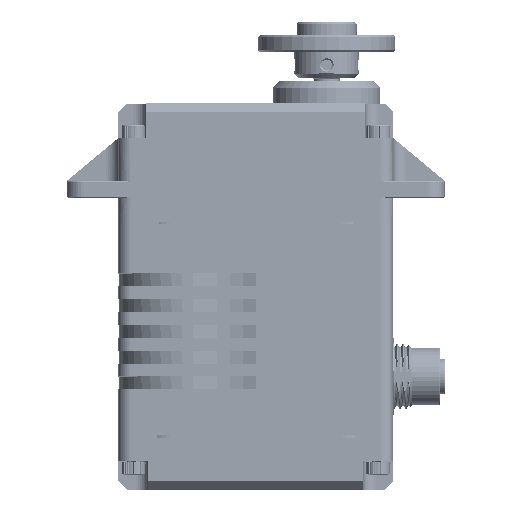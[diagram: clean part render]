
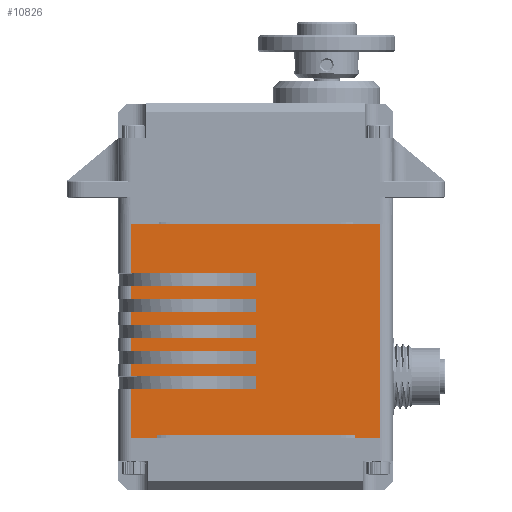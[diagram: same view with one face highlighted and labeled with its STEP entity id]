
A CAD part, top view. The second image highlights one B-rep face of the part: STEP entity #10826.
In plain terms, the highlighted planar face has unit normal (0, 0, 1).
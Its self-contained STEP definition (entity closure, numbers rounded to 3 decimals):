
#9131=DIRECTION('',(0.,-1.,0.));
#9132=VECTOR('',#9131,11.5);
#9133=CARTESIAN_POINT('',(-29.,0.,16.5));
#9134=LINE('',#9133,#9132);
#9169=DIRECTION('',(1.,0.,0.));
#9170=VECTOR('',#9169,29.);
#9171=CARTESIAN_POINT('',(-29.,-11.5,16.5));
#9172=LINE('',#9171,#9170);
#9197=DIRECTION('',(0.,-1.,0.));
#9198=VECTOR('',#9197,3.);
#9199=CARTESIAN_POINT('',(0.,-11.5,16.5));
#9200=LINE('',#9199,#9198);
#9240=DIRECTION('',(1.,0.,0.));
#9241=VECTOR('',#9240,29.);
#9242=CARTESIAN_POINT('',(-29.,-38.5,16.5));
#9243=LINE('',#9242,#9241);
#9244=DIRECTION('',(1.,0.,0.));
#9245=VECTOR('',#9244,29.);
#9246=CARTESIAN_POINT('',(-29.,-32.5,16.5));
#9247=LINE('',#9246,#9245);
#9248=DIRECTION('',(1.,0.,0.));
#9249=VECTOR('',#9248,29.);
#9250=CARTESIAN_POINT('',(-29.,-26.5,16.5));
#9251=LINE('',#9250,#9249);
#9252=DIRECTION('',(1.,0.,0.));
#9253=VECTOR('',#9252,29.);
#9254=CARTESIAN_POINT('',(-29.,-20.5,16.5));
#9255=LINE('',#9254,#9253);
#9256=DIRECTION('',(1.,0.,0.));
#9257=VECTOR('',#9256,29.);
#9258=CARTESIAN_POINT('',(-29.,-14.5,16.5));
#9259=LINE('',#9258,#9257);
#9260=DIRECTION('',(1.,0.,0.));
#9261=VECTOR('',#9260,58.);
#9262=CARTESIAN_POINT('',(-29.,0.,16.5));
#9263=LINE('',#9262,#9261);
#9264=DIRECTION('',(0.,1.,0.));
#9265=VECTOR('',#9264,0.6);
#9266=CARTESIAN_POINT('',(23.111,-49.8,16.5));
#9267=LINE('',#9266,#9265);
#9277=DIRECTION('',(1.,0.,0.));
#9278=VECTOR('',#9277,5.889);
#9279=CARTESIAN_POINT('',(-29.,-49.8,16.5));
#9280=LINE('',#9279,#9278);
#9421=DIRECTION('',(1.,0.,0.));
#9422=VECTOR('',#9421,5.889);
#9423=CARTESIAN_POINT('',(23.111,-49.8,16.5));
#9424=LINE('',#9423,#9422);
#9448=DIRECTION('',(0.,1.,0.));
#9449=VECTOR('',#9448,49.8);
#9450=CARTESIAN_POINT('',(29.,-49.8,16.5));
#9451=LINE('',#9450,#9449);
#9616=DIRECTION('',(1.,0.,0.));
#9617=VECTOR('',#9616,46.223);
#9618=CARTESIAN_POINT('',(-23.111,-49.2,16.5));
#9619=LINE('',#9618,#9617);
#9640=DIRECTION('',(0.,1.,0.));
#9641=VECTOR('',#9640,0.6);
#9642=CARTESIAN_POINT('',(-23.111,-49.8,16.5));
#9643=LINE('',#9642,#9641);
#9804=DIRECTION('',(0.,-1.,0.));
#9805=VECTOR('',#9804,3.);
#9806=CARTESIAN_POINT('',(-29.,-14.5,16.5));
#9807=LINE('',#9806,#9805);
#9846=DIRECTION('',(1.,0.,0.));
#9847=VECTOR('',#9846,29.);
#9848=CARTESIAN_POINT('',(-29.,-17.5,16.5));
#9849=LINE('',#9848,#9847);
#9854=DIRECTION('',(0.,-1.,0.));
#9855=VECTOR('',#9854,3.);
#9856=CARTESIAN_POINT('',(0.,-17.5,16.5));
#9857=LINE('',#9856,#9855);
#9897=DIRECTION('',(0.,-1.,0.));
#9898=VECTOR('',#9897,3.);
#9899=CARTESIAN_POINT('',(-29.,-20.5,16.5));
#9900=LINE('',#9899,#9898);
#9939=DIRECTION('',(1.,0.,0.));
#9940=VECTOR('',#9939,29.);
#9941=CARTESIAN_POINT('',(-29.,-23.5,16.5));
#9942=LINE('',#9941,#9940);
#9947=DIRECTION('',(0.,-1.,0.));
#9948=VECTOR('',#9947,3.);
#9949=CARTESIAN_POINT('',(0.,-23.5,16.5));
#9950=LINE('',#9949,#9948);
#9990=DIRECTION('',(0.,-1.,0.));
#9991=VECTOR('',#9990,3.);
#9992=CARTESIAN_POINT('',(-29.,-26.5,16.5));
#9993=LINE('',#9992,#9991);
#10032=DIRECTION('',(1.,0.,0.));
#10033=VECTOR('',#10032,29.);
#10034=CARTESIAN_POINT('',(-29.,-29.5,16.5));
#10035=LINE('',#10034,#10033);
#10040=DIRECTION('',(0.,-1.,0.));
#10041=VECTOR('',#10040,3.);
#10042=CARTESIAN_POINT('',(0.,-29.5,16.5));
#10043=LINE('',#10042,#10041);
#10083=DIRECTION('',(0.,-1.,0.));
#10084=VECTOR('',#10083,3.);
#10085=CARTESIAN_POINT('',(-29.,-32.5,16.5));
#10086=LINE('',#10085,#10084);
#10105=DIRECTION('',(1.,0.,0.));
#10106=VECTOR('',#10105,29.);
#10107=CARTESIAN_POINT('',(-29.,-35.5,16.5));
#10108=LINE('',#10107,#10106);
#10141=DIRECTION('',(0.,-1.,0.));
#10142=VECTOR('',#10141,3.);
#10143=CARTESIAN_POINT('',(0.,-35.5,16.5));
#10144=LINE('',#10143,#10142);
#10220=DIRECTION('',(0.,-1.,0.));
#10221=VECTOR('',#10220,11.3);
#10222=CARTESIAN_POINT('',(-29.,-38.5,16.5));
#10223=LINE('',#10222,#10221);
#10288=CARTESIAN_POINT('',(29.,-49.8,16.5));
#10290=VERTEX_POINT('',#10288);
#10292=CARTESIAN_POINT('',(29.,0.,16.5));
#10293=VERTEX_POINT('',#10292);
#10296=CARTESIAN_POINT('',(23.111,-49.8,16.5));
#10297=VERTEX_POINT('',#10296);
#10304=CARTESIAN_POINT('',(-29.,-49.8,16.5));
#10305=CARTESIAN_POINT('',(-23.111,-49.8,16.5));
#10306=VERTEX_POINT('',#10304);
#10307=VERTEX_POINT('',#10305);
#10308=CARTESIAN_POINT('',(-29.,-38.5,16.5));
#10309=VERTEX_POINT('',#10308);
#10310=CARTESIAN_POINT('',(0.,-38.5,16.5));
#10311=VERTEX_POINT('',#10310);
#10312=CARTESIAN_POINT('',(0.,-35.5,16.5));
#10313=VERTEX_POINT('',#10312);
#10314=CARTESIAN_POINT('',(-29.,-35.5,16.5));
#10315=VERTEX_POINT('',#10314);
#10316=CARTESIAN_POINT('',(-29.,-32.5,16.5));
#10317=VERTEX_POINT('',#10316);
#10318=CARTESIAN_POINT('',(0.,-32.5,16.5));
#10319=VERTEX_POINT('',#10318);
#10320=CARTESIAN_POINT('',(0.,-29.5,16.5));
#10321=VERTEX_POINT('',#10320);
#10322=CARTESIAN_POINT('',(-29.,-29.5,16.5));
#10323=VERTEX_POINT('',#10322);
#10324=CARTESIAN_POINT('',(-29.,-26.5,16.5));
#10325=VERTEX_POINT('',#10324);
#10326=CARTESIAN_POINT('',(0.,-26.5,16.5));
#10327=VERTEX_POINT('',#10326);
#10328=CARTESIAN_POINT('',(0.,-23.5,16.5));
#10329=VERTEX_POINT('',#10328);
#10330=CARTESIAN_POINT('',(-29.,-23.5,16.5));
#10331=VERTEX_POINT('',#10330);
#10332=CARTESIAN_POINT('',(-29.,-20.5,16.5));
#10333=VERTEX_POINT('',#10332);
#10334=CARTESIAN_POINT('',(0.,-20.5,16.5));
#10335=VERTEX_POINT('',#10334);
#10336=CARTESIAN_POINT('',(0.,-17.5,16.5));
#10337=VERTEX_POINT('',#10336);
#10338=CARTESIAN_POINT('',(-29.,-17.5,16.5));
#10339=VERTEX_POINT('',#10338);
#10340=CARTESIAN_POINT('',(-29.,-14.5,16.5));
#10341=VERTEX_POINT('',#10340);
#10342=CARTESIAN_POINT('',(0.,-14.5,16.5));
#10343=VERTEX_POINT('',#10342);
#10344=CARTESIAN_POINT('',(0.,-11.5,16.5));
#10345=VERTEX_POINT('',#10344);
#10346=CARTESIAN_POINT('',(-29.,-11.5,16.5));
#10347=VERTEX_POINT('',#10346);
#10348=CARTESIAN_POINT('',(-29.,0.,16.5));
#10349=VERTEX_POINT('',#10348);
#10350=CARTESIAN_POINT('',(23.111,-49.2,16.5));
#10351=VERTEX_POINT('',#10350);
#10352=CARTESIAN_POINT('',(-23.111,-49.2,16.5));
#10353=VERTEX_POINT('',#10352);
#10767=CARTESIAN_POINT('',(-29.,0.,16.5));
#10768=DIRECTION('',(0.,0.,1.));
#10769=DIRECTION('',(1.,0.,0.));
#10770=AXIS2_PLACEMENT_3D('',#10767,#10768,#10769);
#10771=PLANE('',#10770);
#10773=ORIENTED_EDGE('',*,*,#10772,.F.);
#10775=ORIENTED_EDGE('',*,*,#10774,.F.);
#10777=ORIENTED_EDGE('',*,*,#10776,.T.);
#10779=ORIENTED_EDGE('',*,*,#10778,.F.);
#10781=ORIENTED_EDGE('',*,*,#10780,.F.);
#10783=ORIENTED_EDGE('',*,*,#10782,.F.);
#10785=ORIENTED_EDGE('',*,*,#10784,.T.);
#10787=ORIENTED_EDGE('',*,*,#10786,.F.);
#10789=ORIENTED_EDGE('',*,*,#10788,.F.);
#10791=ORIENTED_EDGE('',*,*,#10790,.F.);
#10793=ORIENTED_EDGE('',*,*,#10792,.T.);
#10795=ORIENTED_EDGE('',*,*,#10794,.F.);
#10797=ORIENTED_EDGE('',*,*,#10796,.F.);
#10799=ORIENTED_EDGE('',*,*,#10798,.F.);
#10801=ORIENTED_EDGE('',*,*,#10800,.T.);
#10803=ORIENTED_EDGE('',*,*,#10802,.F.);
#10805=ORIENTED_EDGE('',*,*,#10804,.F.);
#10807=ORIENTED_EDGE('',*,*,#10806,.F.);
#10808=ORIENTED_EDGE('',*,*,#10739,.T.);
#10809=ORIENTED_EDGE('',*,*,#10721,.F.);
#10810=ORIENTED_EDGE('',*,*,#10687,.F.);
#10811=ORIENTED_EDGE('',*,*,#10655,.F.);
#10813=ORIENTED_EDGE('',*,*,#10812,.T.);
#10815=ORIENTED_EDGE('',*,*,#10814,.F.);
#10817=ORIENTED_EDGE('',*,*,#10816,.F.);
#10819=ORIENTED_EDGE('',*,*,#10818,.T.);
#10821=ORIENTED_EDGE('',*,*,#10820,.F.);
#10823=ORIENTED_EDGE('',*,*,#10822,.F.);
#10824=EDGE_LOOP('',(#10773,#10775,#10777,#10779,#10781,#10783,#10785,#10787,
#10789,#10791,#10793,#10795,#10797,#10799,#10801,#10803,#10805,#10807,#10808,
#10809,#10810,#10811,#10813,#10815,#10817,#10819,#10821,#10823));
#10825=FACE_OUTER_BOUND('',#10824,.F.);
#10826=ADVANCED_FACE('',(#10825),#10771,.T.);
#10655=EDGE_CURVE('',#10349,#10347,#9134,.T.);
#10687=EDGE_CURVE('',#10347,#10345,#9172,.T.);
#10721=EDGE_CURVE('',#10345,#10343,#9200,.T.);
#10739=EDGE_CURVE('',#10341,#10343,#9259,.T.);
#10772=EDGE_CURVE('',#10306,#10307,#9280,.T.);
#10774=EDGE_CURVE('',#10309,#10306,#10223,.T.);
#10776=EDGE_CURVE('',#10309,#10311,#9243,.T.);
#10778=EDGE_CURVE('',#10313,#10311,#10144,.T.);
#10780=EDGE_CURVE('',#10315,#10313,#10108,.T.);
#10782=EDGE_CURVE('',#10317,#10315,#10086,.T.);
#10784=EDGE_CURVE('',#10317,#10319,#9247,.T.);
#10786=EDGE_CURVE('',#10321,#10319,#10043,.T.);
#10788=EDGE_CURVE('',#10323,#10321,#10035,.T.);
#10790=EDGE_CURVE('',#10325,#10323,#9993,.T.);
#10792=EDGE_CURVE('',#10325,#10327,#9251,.T.);
#10794=EDGE_CURVE('',#10329,#10327,#9950,.T.);
#10796=EDGE_CURVE('',#10331,#10329,#9942,.T.);
#10798=EDGE_CURVE('',#10333,#10331,#9900,.T.);
#10800=EDGE_CURVE('',#10333,#10335,#9255,.T.);
#10802=EDGE_CURVE('',#10337,#10335,#9857,.T.);
#10804=EDGE_CURVE('',#10339,#10337,#9849,.T.);
#10806=EDGE_CURVE('',#10341,#10339,#9807,.T.);
#10812=EDGE_CURVE('',#10349,#10293,#9263,.T.);
#10814=EDGE_CURVE('',#10290,#10293,#9451,.T.);
#10816=EDGE_CURVE('',#10297,#10290,#9424,.T.);
#10818=EDGE_CURVE('',#10297,#10351,#9267,.T.);
#10820=EDGE_CURVE('',#10353,#10351,#9619,.T.);
#10822=EDGE_CURVE('',#10307,#10353,#9643,.T.);
